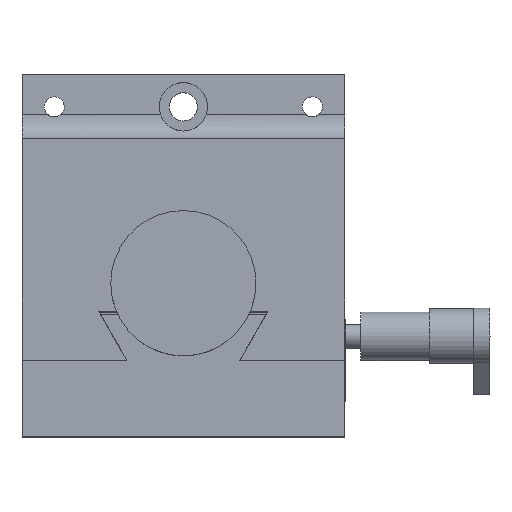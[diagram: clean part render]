
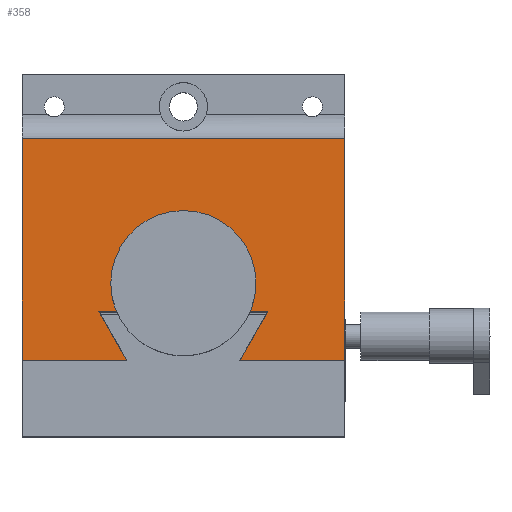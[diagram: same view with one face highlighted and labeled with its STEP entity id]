
A CAD part, top view. The second image highlights one B-rep face of the part: STEP entity #358.
In plain terms, the highlighted planar face has unit normal (0, 0, 1).
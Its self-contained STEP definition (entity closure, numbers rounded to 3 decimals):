
#358 = ADVANCED_FACE( '', ( #801 ), #802, .T. );
#801 = FACE_OUTER_BOUND( '', #1319, .T. );
#802 = PLANE( '', #1320 );
#1319 = EDGE_LOOP( '', ( #2233, #2234, #2235, #2236, #2237, #2238, #2239, #2240, #2241, #2242, #2243, #2244, #2245, #2246, #2247, #2248, #2249, #2250 ) );
#1320 = AXIS2_PLACEMENT_3D( '', #2251, #2252, #2253 );
#2233 = ORIENTED_EDGE( '', *, *, #2979, .F. );
#2234 = ORIENTED_EDGE( '', *, *, #2980, .F. );
#2235 = ORIENTED_EDGE( '', *, *, #2658, .T. );
#2236 = ORIENTED_EDGE( '', *, *, #2890, .T. );
#2237 = ORIENTED_EDGE( '', *, *, #2789, .T. );
#2238 = ORIENTED_EDGE( '', *, *, #2735, .F. );
#2239 = ORIENTED_EDGE( '', *, *, #2956, .F. );
#2240 = ORIENTED_EDGE( '', *, *, #2654, .F. );
#2241 = ORIENTED_EDGE( '', *, *, #2633, .F. );
#2242 = ORIENTED_EDGE( '', *, *, #2942, .F. );
#2243 = ORIENTED_EDGE( '', *, *, #2917, .F. );
#2244 = ORIENTED_EDGE( '', *, *, #2677, .F. );
#2245 = ORIENTED_EDGE( '', *, *, #2957, .F. );
#2246 = ORIENTED_EDGE( '', *, *, #2960, .F. );
#2247 = ORIENTED_EDGE( '', *, *, #2981, .T. );
#2248 = ORIENTED_EDGE( '', *, *, #2787, .T. );
#2249 = ORIENTED_EDGE( '', *, *, #2831, .T. );
#2250 = ORIENTED_EDGE( '', *, *, #2748, .F. );
#2251 = CARTESIAN_POINT( '', ( -20., -20., 60. ) );
#2252 = DIRECTION( '', ( 0., 0., 1. ) );
#2253 = DIRECTION( '', ( 0., 1., 0. ) );
#2633 = EDGE_CURVE( '', #3065, #3066, #3067, .T. );
#2654 = EDGE_CURVE( '', #3066, #3102, #3103, .F. );
#2658 = EDGE_CURVE( '', #3109, #3106, #3110, .T. );
#2677 = EDGE_CURVE( '', #3142, #3143, #3144, .F. );
#2735 = EDGE_CURVE( '', #3241, #3243, #3244, .T. );
#2748 = EDGE_CURVE( '', #3262, #3264, #3265, .T. );
#2787 = EDGE_CURVE( '', #3326, #3331, #3333, .T. );
#2789 = EDGE_CURVE( '', #3335, #3243, #3336, .T. );
#2831 = EDGE_CURVE( '', #3331, #3264, #3402, .T. );
#2890 = EDGE_CURVE( '', #3106, #3335, #3486, .T. );
#2917 = EDGE_CURVE( '', #3143, #3523, #3524, .T. );
#2942 = EDGE_CURVE( '', #3523, #3065, #3559, .F. );
#2956 = EDGE_CURVE( '', #3102, #3241, #3576, .F. );
#2957 = EDGE_CURVE( '', #3540, #3142, #3577, .F. );
#2960 = EDGE_CURVE( '', #3579, #3540, #3581, .T. );
#2979 = EDGE_CURVE( '', #3602, #3262, #3603, .T. );
#2980 = EDGE_CURVE( '', #3109, #3602, #3604, .T. );
#2981 = EDGE_CURVE( '', #3579, #3326, #3605, .T. );
#3065 = VERTEX_POINT( '', #3696 );
#3066 = VERTEX_POINT( '', #3697 );
#3067 = CIRCLE( '', #3698, 7.5 );
#3102 = VERTEX_POINT( '', #3742 );
#3103 = LINE( '', #3743, #3744 );
#3106 = VERTEX_POINT( '', #3748 );
#3109 = VERTEX_POINT( '', #3752 );
#3110 = LINE( '', #3753, #3754 );
#3142 = VERTEX_POINT( '', #3799 );
#3143 = VERTEX_POINT( '', #3800 );
#3144 = LINE( '', #3801, #3802 );
#3241 = VERTEX_POINT( '', #3931 );
#3243 = VERTEX_POINT( '', #3934 );
#3244 = LINE( '', #3935, #3936 );
#3262 = VERTEX_POINT( '', #3958 );
#3264 = VERTEX_POINT( '', #3961 );
#3265 = LINE( '', #3962, #3963 );
#3326 = VERTEX_POINT( '', #4043 );
#3331 = VERTEX_POINT( '', #4050 );
#3333 = LINE( '', #4053, #4054 );
#3335 = VERTEX_POINT( '', #4056 );
#3336 = LINE( '', #4057, #4058 );
#3402 = LINE( '', #4190, #4191 );
#3486 = LINE( '', #4305, #4306 );
#3523 = VERTEX_POINT( '', #4350 );
#3524 = CIRCLE( '', #4351, 7.5 );
#3540 = VERTEX_POINT( '', #4377 );
#3559 = LINE( '', #4398, #4399 );
#3576 = LINE( '', #4455, #4456 );
#3577 = LINE( '', #4457, #4458 );
#3579 = VERTEX_POINT( '', #4460 );
#3581 = LINE( '', #4463, #4464 );
#3602 = VERTEX_POINT( '', #4491 );
#3603 = LINE( '', #4492, #4493 );
#3604 = LINE( '', #4494, #4495 );
#3605 = LINE( '', #4496, #4497 );
#3696 = CARTESIAN_POINT( '', ( -23.742, -19.5, 60. ) );
#3697 = CARTESIAN_POINT( '', ( -26., -21.5, 60. ) );
#3698 = AXIS2_PLACEMENT_3D( '', #4603, #4604, #4605 );
#3742 = CARTESIAN_POINT( '', ( -26., -28.3, 60. ) );
#3743 = CARTESIAN_POINT( '', ( -26., -21.5, 60. ) );
#3744 = VECTOR( '', #4633, 1000. );
#3748 = CARTESIAN_POINT( '', ( -27., -35.5, 60. ) );
#3752 = CARTESIAN_POINT( '', ( -40., -35.5, 60. ) );
#3753 = CARTESIAN_POINT( '', ( -20., -35.5, 60. ) );
#3754 = VECTOR( '', #4636, 1000. );
#3799 = CARTESIAN_POINT( '', ( -14., -28.3, 60. ) );
#3800 = CARTESIAN_POINT( '', ( -14., -21.5, 60. ) );
#3801 = CARTESIAN_POINT( '', ( -14., -28.3, 60. ) );
#3802 = VECTOR( '', #4656, 1000. );
#3931 = CARTESIAN_POINT( '', ( -23., -28.3, 60. ) );
#3934 = CARTESIAN_POINT( '', ( -23., -29.5, 60. ) );
#3935 = CARTESIAN_POINT( '', ( -23., -25.5, 60. ) );
#3936 = VECTOR( '', #4726, 1000. );
#3958 = CARTESIAN_POINT( '', ( 0., -8., 60. ) );
#3961 = CARTESIAN_POINT( '', ( 0., -35.5, 60. ) );
#3962 = CARTESIAN_POINT( '', ( 0., -20., 60. ) );
#3963 = VECTOR( '', #4744, 1000. );
#4043 = CARTESIAN_POINT( '', ( -9.536, -29.5, 60. ) );
#4050 = CARTESIAN_POINT( '', ( -13., -35.5, 60. ) );
#4053 = CARTESIAN_POINT( '', ( -8.038, -26.906, 60. ) );
#4054 = VECTOR( '', #4797, 1000. );
#4056 = CARTESIAN_POINT( '', ( -30.464, -29.5, 60. ) );
#4057 = CARTESIAN_POINT( '', ( -20., -29.5, 60. ) );
#4058 = VECTOR( '', #4798, 1000. );
#4190 = CARTESIAN_POINT( '', ( -20., -35.5, 60. ) );
#4191 = VECTOR( '', #4856, 1000. );
#4305 = CARTESIAN_POINT( '', ( -31.962, -26.906, 60. ) );
#4306 = VECTOR( '', #4926, 1000. );
#4350 = CARTESIAN_POINT( '', ( -16.258, -19.5, 60. ) );
#4351 = AXIS2_PLACEMENT_3D( '', #4964, #4965, #4966 );
#4377 = CARTESIAN_POINT( '', ( -17., -28.3, 60. ) );
#4398 = CARTESIAN_POINT( '', ( -16.258, -19.5, 60. ) );
#4399 = VECTOR( '', #4999, 1000. );
#4455 = CARTESIAN_POINT( '', ( -26., -28.3, 60. ) );
#4456 = VECTOR( '', #5008, 1000. );
#4457 = CARTESIAN_POINT( '', ( -26., -28.3, 60. ) );
#4458 = VECTOR( '', #5009, 1000. );
#4460 = CARTESIAN_POINT( '', ( -17., -29.5, 60. ) );
#4463 = CARTESIAN_POINT( '', ( -17., -25.5, 60. ) );
#4464 = VECTOR( '', #5011, 1000. );
#4491 = CARTESIAN_POINT( '', ( -40., -8., 60. ) );
#4492 = CARTESIAN_POINT( '', ( 192.814, -8., 60. ) );
#4493 = VECTOR( '', #5027, 1000. );
#4494 = CARTESIAN_POINT( '', ( -40., -20., 60. ) );
#4495 = VECTOR( '', #5028, 1000. );
#4496 = CARTESIAN_POINT( '', ( -20., -29.5, 60. ) );
#4497 = VECTOR( '', #5029, 1000. );
#4603 = CARTESIAN_POINT( '', ( -20., -26., 60. ) );
#4604 = DIRECTION( '', ( 0., 0., 1. ) );
#4605 = DIRECTION( '', ( 0., 1., 0. ) );
#4633 = DIRECTION( '', ( 0., 1., 0. ) );
#4636 = DIRECTION( '', ( 1., 0., 0. ) );
#4656 = DIRECTION( '', ( 0., -1., 0. ) );
#4726 = DIRECTION( '', ( 0., -1., 0. ) );
#4744 = DIRECTION( '', ( 0., -1., 0. ) );
#4797 = DIRECTION( '', ( -0.5, -0.866, 0. ) );
#4798 = DIRECTION( '', ( 1., 0., 0. ) );
#4856 = DIRECTION( '', ( 1., 0., 0. ) );
#4926 = DIRECTION( '', ( -0.5, 0.866, 0. ) );
#4964 = CARTESIAN_POINT( '', ( -20., -26., 60. ) );
#4965 = DIRECTION( '', ( 0., 0., 1. ) );
#4966 = DIRECTION( '', ( 0., 1., 0. ) );
#4999 = DIRECTION( '', ( 1., 0., 0. ) );
#5008 = DIRECTION( '', ( -1., 0., 0. ) );
#5009 = DIRECTION( '', ( -1., 0., 0. ) );
#5011 = DIRECTION( '', ( 0., 1., 0. ) );
#5027 = DIRECTION( '', ( 1., 0., 0. ) );
#5028 = DIRECTION( '', ( 0., 1., 0. ) );
#5029 = DIRECTION( '', ( 1., 0., 0. ) );
